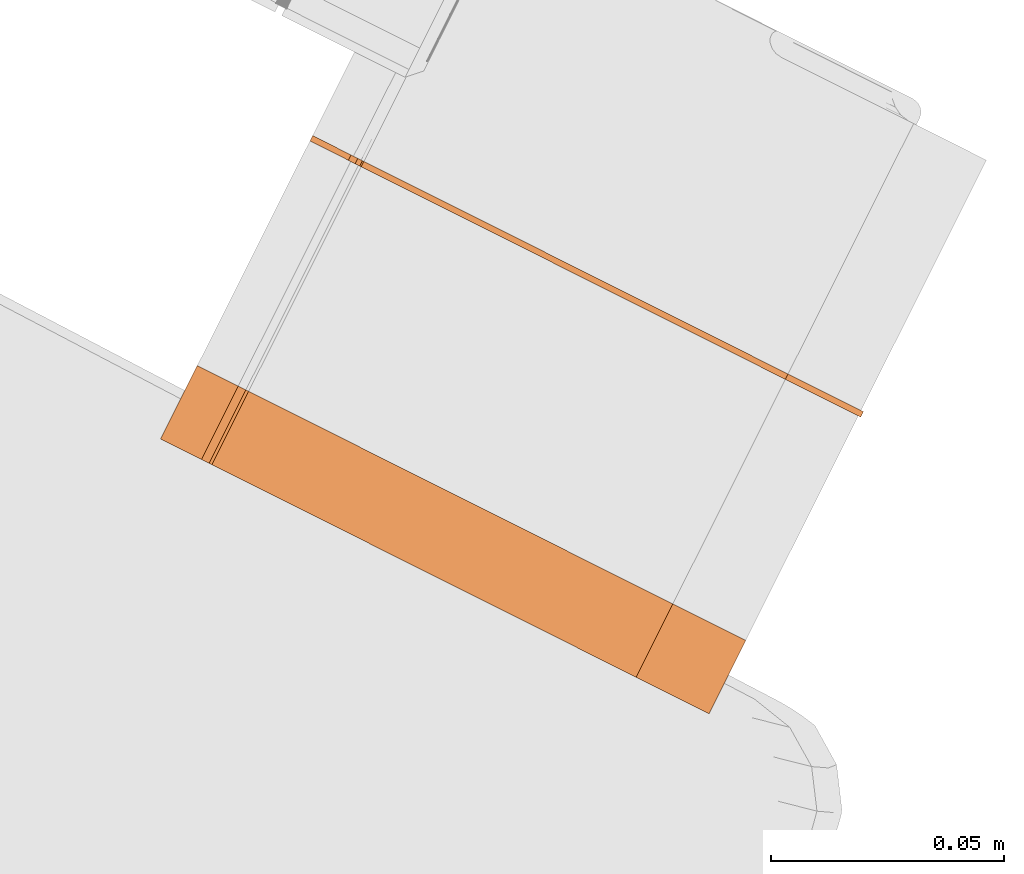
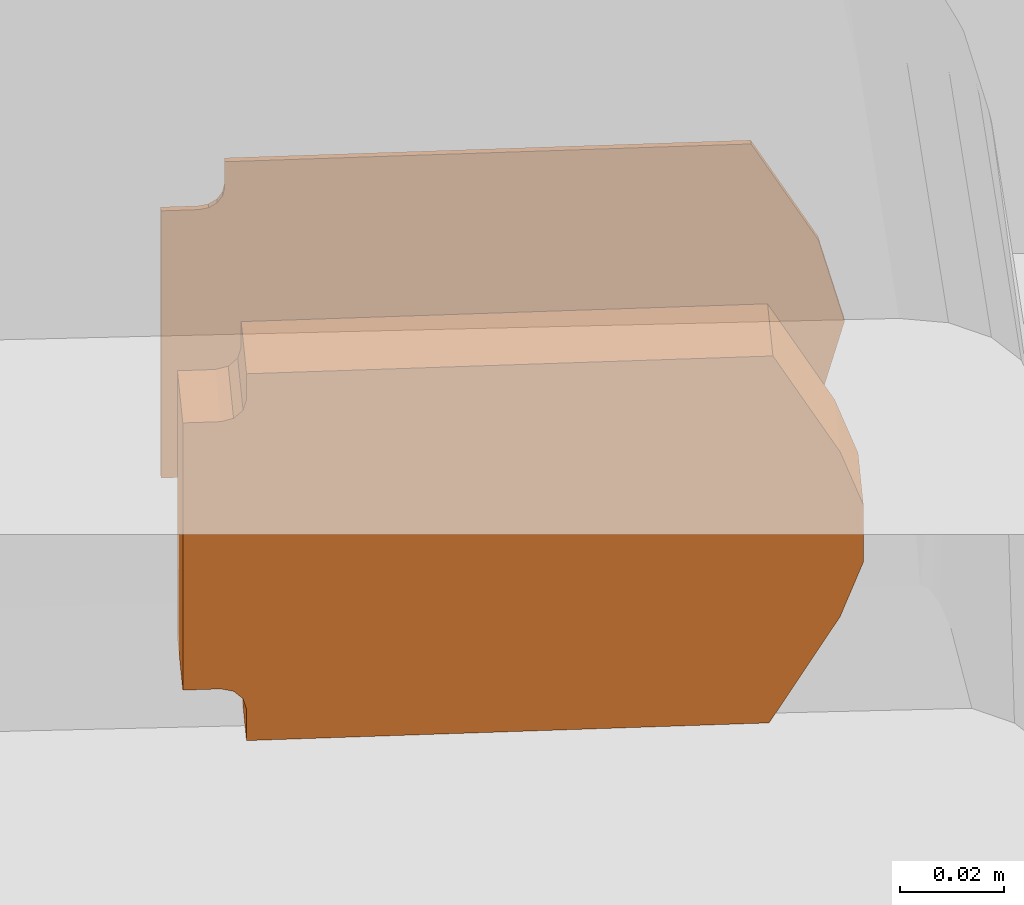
# One storey, part 188 of 206: 2 proxies.
"""IFC2X3 building model written with IfcOpenShell, lengths in metres."""

from ifc_helpers import new_model, si_unit, derived_unit, direction, frame, origin, place, context, subcontext, project, spatial, faceted_brep, source, transform, mapped, material, type_object, type_shapes, element, save


model = new_model("IFC2X3")

# Units and contexts
model_context = context("Model", 3, precision=5.2338327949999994e-05, world=origin(), true_north=direction((0.0, 1.0)))
body_context = subcontext(model_context, "Body", "Model", "MODEL_VIEW")
ifc_project = project(units=[si_unit("LENGTHUNIT", "METRE"), si_unit("AREAUNIT", "SQUARE_METRE"), si_unit("VOLUMEUNIT", "CUBIC_METRE"), si_unit("MASSUNIT", "GRAM", prefix="KILO"), si_unit("PLANEANGLEUNIT", "RADIAN"), derived_unit("THERMALTRANSMITTANCEUNIT", [(si_unit("MASSUNIT", "GRAM", prefix="KILO"), 1), (si_unit("THERMODYNAMICTEMPERATUREUNIT", "KELVIN"), -1), (si_unit("TIMEUNIT", "SECOND"), -3)])], contexts=[model_context])

# Site, building, storey
site_placement = place(None, frame((0.0, 0.0, 0.0), z_axis=(0.0, 0.0, 1.0), x_axis=(0.8939966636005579, -0.4480736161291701, 0.0)))
site = spatial("IfcSite", under=ifc_project, at=site_placement, Name="Default", CompositionType="ELEMENT")
building_placement = place(site_placement, origin())
building = spatial("IfcBuilding", under=site, at=building_placement, CompositionType="ELEMENT")
storey_placement = place(building_placement, origin())
storey = spatial("IfcBuildingStorey", under=building, at=storey_placement, Name="Erdgeschoss", CompositionType="ELEMENT", Elevation=0.0)

# Proxies
ifc_material_1 = material(Name="IfcSurfaceStyle #623543")
building_element_proxy_type_1 = type_object("IfcBuildingElementProxyType", Name="BuildingElementProxy 119:BuildingElementProxy 119", PredefinedType="NOTDEFINED", material=ifc_material_1)
shared_shape_1 = source(origin(), body_context, "Body", "Brep", [
    faceted_brep([(21.61144826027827, 4.428465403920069, 0.48640835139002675), (21.611828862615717, 4.428465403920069, 0.48449493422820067), (21.662371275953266, 4.428465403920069, 0.47710583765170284), (21.611828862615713, 4.428465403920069, 0.48080038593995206), (21.611828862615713, 4.428465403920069, 0.477105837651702), (21.712913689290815, 4.428465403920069, 0.47710583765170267), (21.719783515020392, 4.428465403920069, 0.48934336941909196), (21.726653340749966, 4.428465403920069, 0.5015809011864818), (21.662740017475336, 4.428465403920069, 0.5635703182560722), (21.726653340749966, 4.428465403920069, 0.5404089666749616), (21.720152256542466, 4.428465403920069, 0.5519896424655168), (21.731729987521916, 4.428465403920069, 0.5209949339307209), (21.713651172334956, 4.428465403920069, 0.5635703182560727), (21.611828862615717, 4.428465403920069, 0.5635703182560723), (21.611828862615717, 4.428465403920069, 0.560532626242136), (21.61182886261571, 4.428465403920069, 0.557494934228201), (21.61144826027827, 4.428465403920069, 0.5555815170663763), (21.61036439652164, 4.428465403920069, 0.5539594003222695), (21.599499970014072, 4.428465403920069, 0.520994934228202), (21.610364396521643, 4.428465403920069, 0.4880304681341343), (21.608742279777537, 4.428465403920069, 0.5528755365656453), (21.60682886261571, 4.428465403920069, 0.5524949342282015), (21.60316441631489, 4.428465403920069, 0.5524949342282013), (21.59949997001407, 4.428465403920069, 0.5524949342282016), (21.59949997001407, 4.428465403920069, 0.4894949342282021), (21.603164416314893, 4.428465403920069, 0.4894949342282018), (21.60682886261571, 4.428465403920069, 0.48949493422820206), (21.608742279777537, 4.428465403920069, 0.4891143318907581), (21.611828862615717, 4.429758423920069, 0.5635703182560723), (21.662740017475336, 4.429758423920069, 0.5635703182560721), (21.713651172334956, 4.429758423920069, 0.5635703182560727), (21.720152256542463, 4.429758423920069, 0.5519896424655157), (21.726653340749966, 4.429758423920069, 0.5404089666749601), (21.731729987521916, 4.429758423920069, 0.5209949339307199), (21.726653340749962, 4.429758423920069, 0.5015809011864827), (21.719783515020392, 4.429758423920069, 0.48934336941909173), (21.712913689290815, 4.429758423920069, 0.4771058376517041), (21.662371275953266, 4.429758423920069, 0.4771058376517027), (21.611828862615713, 4.429758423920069, 0.47710583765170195), (21.611828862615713, 4.429758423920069, 0.48080038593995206), (21.611828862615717, 4.429758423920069, 0.48449493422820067), (21.611828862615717, 4.4297584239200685, 0.560532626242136), (21.61182886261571, 4.4297584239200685, 0.557494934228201), (21.61144826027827, 4.4297584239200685, 0.48640835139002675), (21.610364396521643, 4.4297584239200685, 0.4880304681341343), (21.599499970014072, 4.4297584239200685, 0.520994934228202), (21.61036439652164, 4.4297584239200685, 0.5539594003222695), (21.61144826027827, 4.4297584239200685, 0.5555815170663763), (21.608742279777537, 4.4297584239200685, 0.4891143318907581), (21.60682886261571, 4.4297584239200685, 0.48949493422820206), (21.603164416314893, 4.4297584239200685, 0.4894949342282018), (21.59949997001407, 4.4297584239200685, 0.4894949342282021), (21.59949997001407, 4.4297584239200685, 0.5524949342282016), (21.60316441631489, 4.4297584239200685, 0.5524949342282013), (21.60682886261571, 4.4297584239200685, 0.5524949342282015), (21.608742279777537, 4.4297584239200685, 0.5528755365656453)], [[[0, 1, 2]], [[2, 1, 3]], [[2, 3, 4]], [[5, 6, 2]], [[2, 6, 7]], [[2, 7, 8]], [[8, 7, 9]], [[8, 9, 10]], [[7, 11, 9]], [[10, 12, 8]], [[13, 14, 8]], [[8, 14, 15]], [[8, 15, 16]], [[16, 17, 8]], [[8, 17, 18]], [[8, 18, 2]], [[2, 18, 19]], [[2, 19, 0]], [[17, 20, 18]], [[18, 20, 21]], [[18, 21, 22]], [[22, 23, 18]], [[24, 25, 18]], [[18, 25, 26]], [[18, 26, 27]], [[27, 19, 18]], [[28, 13, 29]], [[29, 13, 8]], [[29, 8, 30]], [[30, 8, 12]], [[30, 12, 31]], [[31, 12, 10]], [[31, 10, 32]], [[32, 10, 9]], [[9, 11, 32]], [[32, 11, 33]], [[11, 7, 33]], [[33, 7, 34]], [[34, 7, 35]], [[35, 7, 6]], [[35, 6, 36]], [[36, 6, 5]], [[36, 5, 37]], [[37, 5, 2]], [[37, 2, 38]], [[38, 2, 4]], [[38, 4, 39]], [[39, 4, 3]], [[39, 3, 40]], [[40, 3, 1]], [[28, 29, 41]], [[41, 29, 42]], [[30, 31, 29]], [[29, 31, 32]], [[29, 32, 34]], [[34, 32, 33]], [[29, 34, 37]], [[37, 34, 35]], [[37, 35, 36]], [[38, 39, 37]], [[37, 39, 40]], [[37, 40, 43]], [[43, 44, 37]], [[37, 44, 45]], [[37, 45, 29]], [[29, 45, 46]], [[29, 46, 47]], [[44, 48, 45]], [[45, 48, 49]], [[45, 49, 50]], [[50, 51, 45]], [[52, 53, 45]], [[45, 53, 54]], [[45, 54, 55]], [[55, 46, 45]], [[47, 42, 29]], [[1, 0, 40]], [[40, 0, 43]], [[0, 19, 43]], [[43, 19, 44]], [[19, 27, 44]], [[44, 27, 48]], [[27, 26, 48]], [[48, 26, 49]], [[49, 26, 50]], [[50, 26, 25]], [[50, 25, 51]], [[51, 25, 24]], [[51, 24, 45]], [[45, 24, 18]], [[45, 18, 52]], [[52, 18, 23]], [[52, 23, 53]], [[53, 23, 22]], [[53, 22, 54]], [[54, 22, 21]], [[21, 20, 54]], [[54, 20, 55]], [[20, 17, 55]], [[55, 17, 46]], [[17, 16, 46]], [[46, 16, 47]], [[16, 15, 47]], [[47, 15, 42]], [[42, 15, 41]], [[41, 15, 14]], [[41, 14, 28]], [[28, 14, 13]]]),
])
type_shapes(building_element_proxy_type_1, [shared_shape_1])
proxy_1_placement = place(storey_placement, origin())
element("IfcBuildingElementProxy", 1, at=proxy_1_placement, inside=storey, type_object=building_element_proxy_type_1, material=ifc_material_1, Name="BuildingElementProxy 119", context=body_context, shape_type="MappedRepresentation", body=[
    mapped(shared_shape_1, transform((0.0, 0.0, 0.0), scale=1.0)),
])
ifc_material_2 = material(Name="IfcSurfaceStyle #649647")
building_element_proxy_type_2 = type_object("IfcBuildingElementProxyType", Name="BuildingElementProxy 122:BuildingElementProxy 122", PredefinedType="NOTDEFINED", material=ifc_material_2)
shared_shape_2 = source(origin(), body_context, "Body", "Brep", [
    faceted_brep([(21.731154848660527, 4.374558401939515, 0.5277246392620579), (21.72665334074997, 4.374558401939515, 0.5015809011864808), (21.72665334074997, 4.374558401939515, 0.540408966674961), (21.61115898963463, 4.374558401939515, 0.48699493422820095), (21.61115898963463, 4.374558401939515, 0.5549949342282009), (21.60932886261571, 4.374558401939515, 0.48882506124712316), (21.60932886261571, 4.374558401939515, 0.5531648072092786), (21.60682886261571, 4.374558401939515, 0.4894949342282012), (21.60682886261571, 4.374558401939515, 0.552494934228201), (21.599499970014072, 4.374558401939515, 0.4894949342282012), (21.599499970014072, 4.374558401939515, 0.5524949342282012), (21.713651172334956, 4.374558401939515, 0.5635703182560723), (21.611828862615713, 4.374558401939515, 0.557494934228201), (21.611828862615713, 4.374558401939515, 0.5635703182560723), (21.731154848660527, 4.374558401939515, 0.5142652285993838), (21.712913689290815, 4.374558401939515, 0.4771058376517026), (21.611828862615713, 4.374558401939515, 0.4844949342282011), (21.611828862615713, 4.374558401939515, 0.4771058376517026), (21.72665334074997, 4.356958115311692, 0.5015809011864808), (21.712913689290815, 4.356958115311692, 0.4771058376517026), (21.731154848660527, 4.356958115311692, 0.5142652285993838), (21.731154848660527, 4.356958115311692, 0.5277246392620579), (21.72665334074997, 4.356958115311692, 0.540408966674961), (21.713651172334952, 4.356958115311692, 0.5635703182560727), (21.611828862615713, 4.356958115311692, 0.5635703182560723), (21.611828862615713, 4.356958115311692, 0.5574949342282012), (21.61115898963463, 4.356958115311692, 0.5549949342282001), (21.60932886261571, 4.356958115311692, 0.5531648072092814), (21.60682886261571, 4.356958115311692, 0.5524949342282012), (21.599499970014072, 4.356958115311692, 0.5524949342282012), (21.59949997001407, 4.356958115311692, 0.4894949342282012), (21.60682886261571, 4.356958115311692, 0.4894949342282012), (21.60932886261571, 4.356958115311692, 0.48882506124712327), (21.61115898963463, 4.356958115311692, 0.48699493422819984), (21.611828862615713, 4.356958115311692, 0.4844949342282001), (21.611828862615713, 4.356958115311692, 0.4771058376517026)], [[[0, 1, 2]], [[2, 1, 3]], [[2, 3, 4]], [[4, 3, 5]], [[4, 5, 6]], [[6, 5, 7]], [[6, 7, 8]], [[8, 7, 9]], [[8, 9, 10]], [[2, 4, 11]], [[11, 4, 12]], [[11, 12, 13]], [[0, 14, 1]], [[1, 15, 3]], [[3, 15, 16]], [[15, 17, 16]], [[1, 18, 15]], [[15, 18, 19]], [[18, 1, 20]], [[20, 1, 14]], [[20, 14, 21]], [[21, 14, 0]], [[21, 0, 22]], [[22, 0, 2]], [[11, 23, 2]], [[2, 23, 22]], [[13, 24, 11]], [[11, 24, 23]], [[12, 25, 13]], [[13, 25, 24]], [[12, 4, 25]], [[25, 4, 26]], [[4, 6, 26]], [[26, 6, 27]], [[6, 8, 27]], [[27, 8, 28]], [[10, 29, 8]], [[8, 29, 28]], [[9, 30, 10]], [[10, 30, 29]], [[7, 31, 9]], [[9, 31, 30]], [[7, 5, 31]], [[31, 5, 32]], [[5, 3, 32]], [[32, 3, 33]], [[3, 16, 33]], [[33, 16, 34]], [[17, 35, 16]], [[16, 35, 34]], [[15, 19, 17]], [[17, 19, 35]], [[29, 30, 28]], [[28, 30, 31]], [[28, 31, 27]], [[27, 31, 32]], [[27, 32, 26]], [[26, 32, 33]], [[26, 33, 18]], [[18, 33, 19]], [[33, 34, 19]], [[19, 34, 35]], [[20, 21, 18]], [[18, 21, 22]], [[18, 22, 26]], [[26, 22, 23]], [[26, 23, 25]], [[25, 23, 24]]]),
])
type_shapes(building_element_proxy_type_2, [shared_shape_2])
proxy_2_placement = place(storey_placement, origin())
element("IfcBuildingElementProxy", 2, at=proxy_2_placement, inside=storey, type_object=building_element_proxy_type_2, material=ifc_material_2, Name="BuildingElementProxy 122", context=body_context, shape_type="MappedRepresentation", body=[
    mapped(shared_shape_2, transform((0.0, 0.0, 0.0), scale=1.0)),
])

save(model, "model.ifc")
